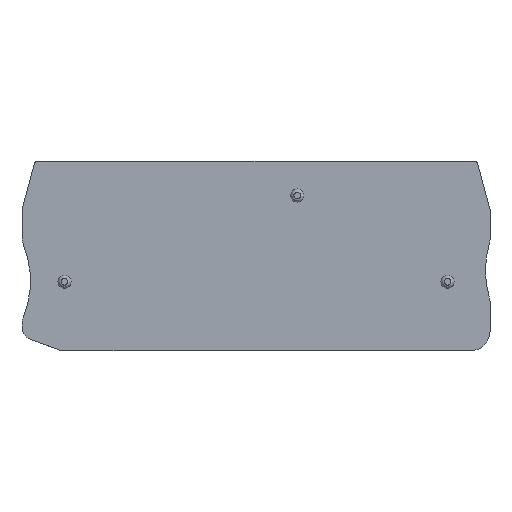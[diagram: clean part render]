
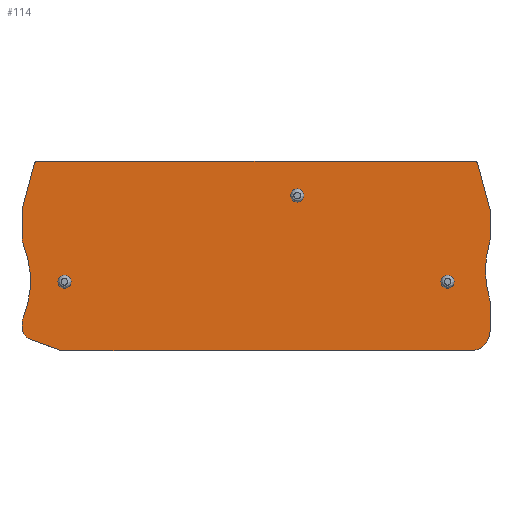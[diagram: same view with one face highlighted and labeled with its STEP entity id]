
A CAD part, top view. The second image highlights one B-rep face of the part: STEP entity #114.
In plain terms, the highlighted planar face has unit normal (0, 0, 1).
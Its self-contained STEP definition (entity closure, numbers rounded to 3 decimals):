
#37=FACE_BOUND('',#181,.T.);
#38=FACE_BOUND('',#182,.T.);
#39=FACE_BOUND('',#183,.T.);
#40=FACE_BOUND('',#184,.T.);
#67=CIRCLE('',#523,0.5);
#69=CIRCLE('',#528,2.);
#71=CIRCLE('',#531,14.5);
#73=CIRCLE('',#534,2.);
#75=CIRCLE('',#538,3.);
#77=CIRCLE('',#543,2.);
#79=CIRCLE('',#547,2.);
#81=CIRCLE('',#550,14.5);
#83=CIRCLE('',#553,2.);
#85=CIRCLE('',#558,0.5);
#86=CIRCLE('',#560,1.);
#87=CIRCLE('',#561,1.);
#88=CIRCLE('',#562,1.);
#114=ADVANCED_FACE('',(#37,#38,#39,#40),#134,.F.);
#134=PLANE('',#563);
#181=EDGE_LOOP('',(#277,#278,#279,#280,#281,#282,#283,#284,#285,#286,#287,
#288,#289,#290,#291,#292,#293,#294,#295));
#182=EDGE_LOOP('',(#296));
#183=EDGE_LOOP('',(#297));
#184=EDGE_LOOP('',(#298));
#277=ORIENTED_EDGE('',*,*,#382,.F.);
#278=ORIENTED_EDGE('',*,*,#436,.F.);
#279=ORIENTED_EDGE('',*,*,#433,.F.);
#280=ORIENTED_EDGE('',*,*,#430,.F.);
#281=ORIENTED_EDGE('',*,*,#427,.F.);
#282=ORIENTED_EDGE('',*,*,#424,.F.);
#283=ORIENTED_EDGE('',*,*,#421,.F.);
#284=ORIENTED_EDGE('',*,*,#418,.F.);
#285=ORIENTED_EDGE('',*,*,#415,.F.);
#286=ORIENTED_EDGE('',*,*,#412,.F.);
#287=ORIENTED_EDGE('',*,*,#409,.F.);
#288=ORIENTED_EDGE('',*,*,#406,.F.);
#289=ORIENTED_EDGE('',*,*,#403,.F.);
#290=ORIENTED_EDGE('',*,*,#400,.F.);
#291=ORIENTED_EDGE('',*,*,#397,.F.);
#292=ORIENTED_EDGE('',*,*,#394,.F.);
#293=ORIENTED_EDGE('',*,*,#391,.F.);
#294=ORIENTED_EDGE('',*,*,#388,.F.);
#295=ORIENTED_EDGE('',*,*,#385,.F.);
#296=ORIENTED_EDGE('',*,*,#437,.F.);
#297=ORIENTED_EDGE('',*,*,#438,.F.);
#298=ORIENTED_EDGE('',*,*,#439,.F.);
#335=VERTEX_POINT('',#733);
#336=VERTEX_POINT('',#735);
#338=VERTEX_POINT('',#741);
#340=VERTEX_POINT('',#747);
#342=VERTEX_POINT('',#753);
#344=VERTEX_POINT('',#759);
#346=VERTEX_POINT('',#765);
#348=VERTEX_POINT('',#771);
#350=VERTEX_POINT('',#777);
#352=VERTEX_POINT('',#783);
#354=VERTEX_POINT('',#789);
#356=VERTEX_POINT('',#795);
#358=VERTEX_POINT('',#801);
#360=VERTEX_POINT('',#807);
#362=VERTEX_POINT('',#813);
#364=VERTEX_POINT('',#819);
#366=VERTEX_POINT('',#825);
#368=VERTEX_POINT('',#831);
#370=VERTEX_POINT('',#837);
#371=VERTEX_POINT('',#844);
#372=VERTEX_POINT('',#846);
#373=VERTEX_POINT('',#848);
#382=EDGE_CURVE('',#335,#336,#448,.T.);
#385=EDGE_CURVE('',#336,#338,#67,.T.);
#388=EDGE_CURVE('',#338,#340,#452,.T.);
#391=EDGE_CURVE('',#340,#342,#455,.T.);
#394=EDGE_CURVE('',#342,#344,#69,.T.);
#397=EDGE_CURVE('',#344,#346,#71,.T.);
#400=EDGE_CURVE('',#346,#348,#73,.T.);
#403=EDGE_CURVE('',#348,#350,#461,.T.);
#406=EDGE_CURVE('',#350,#352,#75,.T.);
#409=EDGE_CURVE('',#352,#354,#465,.T.);
#412=EDGE_CURVE('',#354,#356,#468,.T.);
#415=EDGE_CURVE('',#356,#358,#77,.T.);
#418=EDGE_CURVE('',#358,#360,#472,.T.);
#421=EDGE_CURVE('',#360,#362,#79,.T.);
#424=EDGE_CURVE('',#362,#364,#81,.T.);
#427=EDGE_CURVE('',#364,#366,#83,.T.);
#430=EDGE_CURVE('',#366,#368,#478,.T.);
#433=EDGE_CURVE('',#368,#370,#481,.T.);
#436=EDGE_CURVE('',#370,#335,#85,.T.);
#437=EDGE_CURVE('',#371,#371,#86,.T.);
#438=EDGE_CURVE('',#372,#372,#87,.T.);
#439=EDGE_CURVE('',#373,#373,#88,.T.);
#448=LINE('',#734,#485);
#452=LINE('',#746,#489);
#455=LINE('',#752,#492);
#461=LINE('',#776,#498);
#465=LINE('',#788,#502);
#468=LINE('',#794,#505);
#472=LINE('',#806,#509);
#478=LINE('',#830,#515);
#481=LINE('',#836,#518);
#485=VECTOR('',#581,1.);
#489=VECTOR('',#593,1.);
#492=VECTOR('',#598,1.);
#498=VECTOR('',#624,1.);
#502=VECTOR('',#636,1.);
#505=VECTOR('',#641,1.);
#509=VECTOR('',#653,1.);
#515=VECTOR('',#679,1.);
#518=VECTOR('',#684,1.);
#523=AXIS2_PLACEMENT_3D('',#740,#587,#588);
#528=AXIS2_PLACEMENT_3D('',#758,#604,#605);
#531=AXIS2_PLACEMENT_3D('',#764,#611,#612);
#534=AXIS2_PLACEMENT_3D('',#770,#618,#619);
#538=AXIS2_PLACEMENT_3D('',#782,#630,#631);
#543=AXIS2_PLACEMENT_3D('',#800,#647,#648);
#547=AXIS2_PLACEMENT_3D('',#812,#659,#660);
#550=AXIS2_PLACEMENT_3D('',#818,#666,#667);
#553=AXIS2_PLACEMENT_3D('',#824,#673,#674);
#558=AXIS2_PLACEMENT_3D('',#841,#690,#691);
#560=AXIS2_PLACEMENT_3D('',#843,#694,#695);
#561=AXIS2_PLACEMENT_3D('',#845,#696,#697);
#562=AXIS2_PLACEMENT_3D('',#847,#698,#699);
#563=AXIS2_PLACEMENT_3D('',#849,#700,#701);
#581=DIRECTION('',(1.,0.,0.));
#587=DIRECTION('',(0.,0.,-1.));
#588=DIRECTION('',(1.,0.,0.));
#593=DIRECTION('',(0.259,-0.966,0.));
#598=DIRECTION('',(0.,-1.,0.));
#604=DIRECTION('',(0.,0.,-1.));
#605=DIRECTION('',(1.,0.,0.));
#611=DIRECTION('',(0.,0.,1.));
#612=DIRECTION('',(1.,0.,0.));
#618=DIRECTION('',(0.,0.,-1.));
#619=DIRECTION('',(-1.,0.,0.));
#624=DIRECTION('',(0.,-1.,0.));
#630=DIRECTION('',(0.,0.,-1.));
#631=DIRECTION('',(1.,0.,0.));
#636=DIRECTION('',(-1.,0.,0.));
#641=DIRECTION('',(-0.94,0.342,0.));
#647=DIRECTION('',(0.,0.,-1.));
#648=DIRECTION('',(-1.,0.,0.));
#653=DIRECTION('',(0.,1.,0.));
#659=DIRECTION('',(0.,0.,-1.));
#660=DIRECTION('',(-1.,0.,0.));
#666=DIRECTION('',(0.,0.,1.));
#667=DIRECTION('',(1.,0.,0.));
#673=DIRECTION('',(0.,0.,-1.));
#674=DIRECTION('',(1.,0.,0.));
#679=DIRECTION('',(0.,1.,0.));
#684=DIRECTION('',(0.259,0.966,0.));
#690=DIRECTION('',(0.,0.,-1.));
#691=DIRECTION('',(1.,0.,0.));
#694=DIRECTION('',(0.,0.,1.));
#695=DIRECTION('',(1.,0.,0.));
#696=DIRECTION('',(0.,0.,1.));
#697=DIRECTION('',(1.,0.,0.));
#698=DIRECTION('',(0.,0.,1.));
#699=DIRECTION('',(1.,0.,0.));
#700=DIRECTION('',(0.,0.,-1.));
#701=DIRECTION('',(-1.,0.,0.));
#733=CARTESIAN_POINT('',(106.995,63.25,2.2));
#734=CARTESIAN_POINT('',(106.995,63.25,2.2));
#735=CARTESIAN_POINT('',(173.827,63.25,2.2));
#740=CARTESIAN_POINT('',(173.827,62.75,2.2));
#741=CARTESIAN_POINT('',(174.31,62.879,2.2));
#746=CARTESIAN_POINT('',(174.31,62.879,2.2));
#747=CARTESIAN_POINT('',(176.211,55.786,2.2));
#752=CARTESIAN_POINT('',(176.211,55.786,2.2));
#753=CARTESIAN_POINT('',(176.211,51.255,2.2));
#758=CARTESIAN_POINT('',(174.211,51.255,2.2));
#759=CARTESIAN_POINT('',(176.126,50.679,2.2));
#764=CARTESIAN_POINT('',(190.011,46.5,2.2));
#765=CARTESIAN_POINT('',(176.126,42.321,2.2));
#770=CARTESIAN_POINT('',(174.211,41.745,2.2));
#771=CARTESIAN_POINT('',(176.211,41.745,2.2));
#776=CARTESIAN_POINT('',(176.211,41.745,2.2));
#777=CARTESIAN_POINT('',(176.211,37.25,2.2));
#782=CARTESIAN_POINT('',(173.211,37.25,2.2));
#783=CARTESIAN_POINT('',(173.211,34.25,2.2));
#788=CARTESIAN_POINT('',(173.211,34.25,2.2));
#789=CARTESIAN_POINT('',(110.722,34.25,2.2));
#794=CARTESIAN_POINT('',(110.722,34.25,2.2));
#795=CARTESIAN_POINT('',(105.927,35.995,2.2));
#800=CARTESIAN_POINT('',(106.611,37.875,2.2));
#801=CARTESIAN_POINT('',(104.611,37.875,2.2));
#806=CARTESIAN_POINT('',(104.611,37.875,2.2));
#807=CARTESIAN_POINT('',(104.611,38.527,2.2));
#812=CARTESIAN_POINT('',(106.611,38.527,2.2));
#813=CARTESIAN_POINT('',(104.768,39.305,2.2));
#818=CARTESIAN_POINT('',(91.411,44.947,2.2));
#819=CARTESIAN_POINT('',(104.768,50.588,2.2));
#824=CARTESIAN_POINT('',(106.611,51.366,2.2));
#825=CARTESIAN_POINT('',(104.611,51.366,2.2));
#830=CARTESIAN_POINT('',(104.611,51.366,2.2));
#831=CARTESIAN_POINT('',(104.611,55.783,2.2));
#836=CARTESIAN_POINT('',(104.611,55.783,2.2));
#837=CARTESIAN_POINT('',(106.512,62.879,2.2));
#841=CARTESIAN_POINT('',(106.995,62.75,2.2));
#843=CARTESIAN_POINT('',(111.111,44.8,2.2));
#844=CARTESIAN_POINT('',(112.111,44.8,2.2));
#845=CARTESIAN_POINT('',(146.711,58.,2.2));
#846=CARTESIAN_POINT('',(147.711,58.,2.2));
#847=CARTESIAN_POINT('',(169.711,44.8,2.2));
#848=CARTESIAN_POINT('',(170.711,44.8,2.2));
#849=CARTESIAN_POINT('',(173.827,62.75,2.2));
